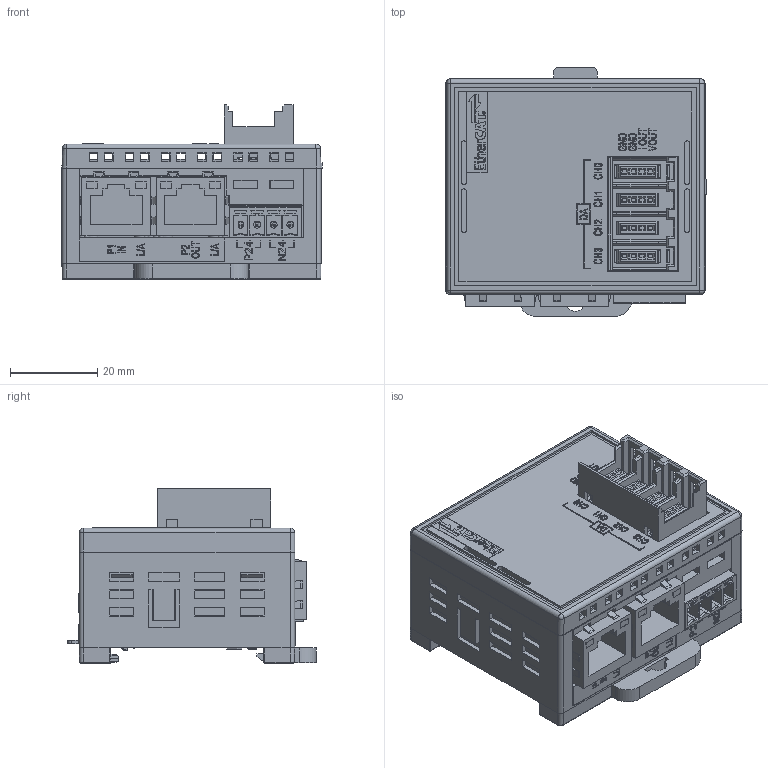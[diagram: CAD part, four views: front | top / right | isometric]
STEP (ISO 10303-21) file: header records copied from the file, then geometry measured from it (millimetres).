
FILE_DESCRIPTION((''),'2;1');
FILE_NAME('ECCEA04','2026-05-11T15:18:45',('gijyu181'),(''),'CREO PARAMETRIC BY PTC INC, 2018050','CREO PARAMETRIC BY PTC INC, 2018050','');
FILE_SCHEMA(('CONFIG_CONTROL_DESIGN','SHAPE_APPEARANCE_LAYERS_GROUPS'));
Products named in the file (1): ECCEA04
Bounding box: 59.75 x 57.15 x 40 mm (x, y, z)
Volume: 68868.9 mm3; surface area: 38432.7 mm2
Topology: 1 solids, 17 shells, 6451 faces, 18161 edges, 12005 vertices
Faces by surface type: plane 4864, cylinder 750, extrusion 723, sphere 44, torus 26, bspline 24, cone 20
Entity records: 262030 total; most frequent: CARTESIAN_POINT 45880, ORIENTED_EDGE 36286, DIRECTION 30029, EDGE_CURVE 18147, VECTOR 15511, LINE 14788, VERTEX_POINT 12005, PRESENTATION_STYLE_ASSIGNMENT 10014
